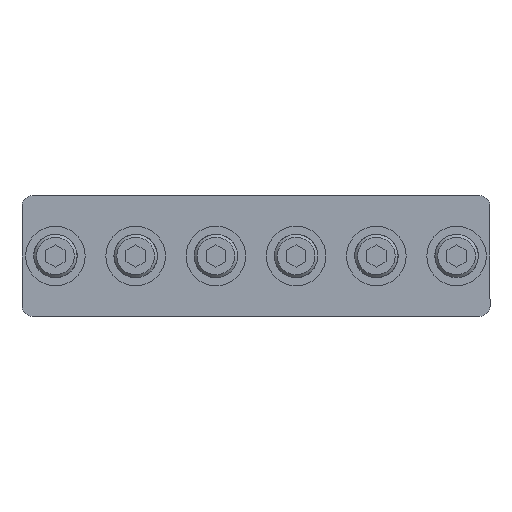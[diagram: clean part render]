
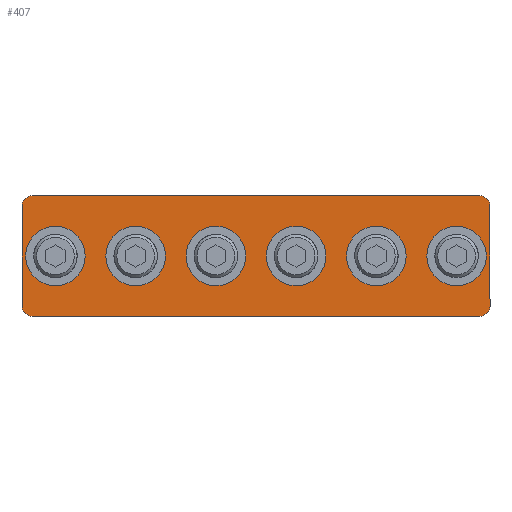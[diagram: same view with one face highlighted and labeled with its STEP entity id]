
A CAD part, front view. The second image highlights one B-rep face of the part: STEP entity #407.
In plain terms, the highlighted planar face has unit normal (0, -1, 0) as drawn and (0, 0, 1) by its records, which use the part's own axes.
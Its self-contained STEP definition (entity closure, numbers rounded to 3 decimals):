
#407=ADVANCED_FACE('',(#630,#631,#632,#633,#634,#635,#636),#637,.T.);
#630=FACE_BOUND('',#797,.T.);
#631=FACE_BOUND('',#798,.T.);
#632=FACE_BOUND('',#799,.T.);
#633=FACE_OUTER_BOUND('',#800,.T.);
#634=FACE_BOUND('',#801,.T.);
#635=FACE_BOUND('',#802,.T.);
#636=FACE_BOUND('',#803,.T.);
#637=PLANE('',#804);
#797=EDGE_LOOP('',(#1089));
#798=EDGE_LOOP('',(#1090));
#799=EDGE_LOOP('',(#1091));
#800=EDGE_LOOP('',(#1092,#1093,#1094,#1095,#1096,#1097,#1098,#1099));
#801=EDGE_LOOP('',(#1100));
#802=EDGE_LOOP('',(#1101));
#803=EDGE_LOOP('',(#1102));
#804=AXIS2_PLACEMENT_3D('',#1103,#1104,#1105);
#1089=ORIENTED_EDGE('',*,*,#1244,.T.);
#1090=ORIENTED_EDGE('',*,*,#1249,.T.);
#1091=ORIENTED_EDGE('',*,*,#1234,.T.);
#1092=ORIENTED_EDGE('',*,*,#1292,.T.);
#1093=ORIENTED_EDGE('',*,*,#1276,.T.);
#1094=ORIENTED_EDGE('',*,*,#1288,.T.);
#1095=ORIENTED_EDGE('',*,*,#1241,.T.);
#1096=ORIENTED_EDGE('',*,*,#1247,.T.);
#1097=ORIENTED_EDGE('',*,*,#1284,.T.);
#1098=ORIENTED_EDGE('',*,*,#1267,.T.);
#1099=ORIENTED_EDGE('',*,*,#1295,.T.);
#1100=ORIENTED_EDGE('',*,*,#1253,.T.);
#1101=ORIENTED_EDGE('',*,*,#1255,.T.);
#1102=ORIENTED_EDGE('',*,*,#1290,.T.);
#1103=CARTESIAN_POINT('',(-63.251,17.277,2.0));
#1104=DIRECTION('',(0.0,0.0,1.0));
#1105=DIRECTION('',(1.0,0.0,0.0));
#1234=EDGE_CURVE('',#1603,#1603,#1604,.T.);
#1241=EDGE_CURVE('',#1614,#1612,#1615,.T.);
#1244=EDGE_CURVE('',#1618,#1618,#1619,.T.);
#1247=EDGE_CURVE('',#1612,#1621,#1623,.T.);
#1249=EDGE_CURVE('',#1625,#1625,#1626,.T.);
#1253=EDGE_CURVE('',#1631,#1631,#1632,.T.);
#1255=EDGE_CURVE('',#1634,#1634,#1635,.T.);
#1267=EDGE_CURVE('',#1653,#1651,#1654,.T.);
#1276=EDGE_CURVE('',#1666,#1664,#1667,.T.);
#1284=EDGE_CURVE('',#1621,#1653,#1677,.T.);
#1288=EDGE_CURVE('',#1664,#1614,#1681,.T.);
#1290=EDGE_CURVE('',#1683,#1683,#1684,.T.);
#1292=EDGE_CURVE('',#1686,#1666,#1687,.T.);
#1295=EDGE_CURVE('',#1651,#1686,#1690,.T.);
#1603=VERTEX_POINT('',#1834);
#1604=CIRCLE('',#1835,4.05);
#1612=VERTEX_POINT('',#1846);
#1614=VERTEX_POINT('',#1849);
#1615=LINE('',#1850,#1851);
#1618=VERTEX_POINT('',#1855);
#1619=CIRCLE('',#1856,4.05);
#1621=VERTEX_POINT('',#1858);
#1623=CIRCLE('',#1861,3.);
#1625=VERTEX_POINT('',#1863);
#1626=CIRCLE('',#1864,4.05);
#1631=VERTEX_POINT('',#1869);
#1632=CIRCLE('',#1870,4.05);
#1634=VERTEX_POINT('',#1872);
#1635=CIRCLE('',#1873,4.05);
#1651=VERTEX_POINT('',#1895);
#1653=VERTEX_POINT('',#1898);
#1654=CIRCLE('',#1899,3.);
#1664=VERTEX_POINT('',#1912);
#1666=VERTEX_POINT('',#1915);
#1667=LINE('',#1916,#1917);
#1677=LINE('',#1930,#1931);
#1681=CIRCLE('',#1936,3.);
#1683=VERTEX_POINT('',#1938);
#1684=CIRCLE('',#1939,4.05);
#1686=VERTEX_POINT('',#1941);
#1687=CIRCLE('',#1942,3.0);
#1690=LINE('',#1946,#1947);
#1834=CARTESIAN_POINT('',(11.699,2.277,2.0));
#1835=AXIS2_PLACEMENT_3D('',#2136,#2137,#2138);
#1846=CARTESIAN_POINT('',(70.749,-15.723,2.0));
#1849=CARTESIAN_POINT('',(-63.251,-15.723,2.0));
#1850=CARTESIAN_POINT('',(-63.251,-15.723,2.0));
#1851=VECTOR('',#2143,1.0);
#1855=CARTESIAN_POINT('',(-36.301,2.277,2.0));
#1856=AXIS2_PLACEMENT_3D('',#2145,#2146,#2147);
#1858=CARTESIAN_POINT('',(73.749,-12.723,2.0));
#1861=AXIS2_PLACEMENT_3D('',#2149,#2150,#2151);
#1863=CARTESIAN_POINT('',(59.699,2.277,2.0));
#1864=AXIS2_PLACEMENT_3D('',#2152,#2153,#2154);
#1869=CARTESIAN_POINT('',(-12.301,2.277,2.0));
#1870=AXIS2_PLACEMENT_3D('',#2158,#2159,#2160);
#1872=CARTESIAN_POINT('',(35.699,2.277,2.0));
#1873=AXIS2_PLACEMENT_3D('',#2161,#2162,#2163);
#1895=CARTESIAN_POINT('',(70.749,20.277,2.0));
#1898=CARTESIAN_POINT('',(73.749,17.277,2.0));
#1899=AXIS2_PLACEMENT_3D('',#2174,#2175,#2176);
#1912=CARTESIAN_POINT('',(-66.251,-12.723,2.0));
#1915=CARTESIAN_POINT('',(-66.251,17.277,2.0));
#1916=CARTESIAN_POINT('',(-66.251,17.277,2.0));
#1917=VECTOR('',#2184,1.0);
#1930=CARTESIAN_POINT('',(73.749,-12.723,2.0));
#1931=VECTOR('',#2191,1.0);
#1936=AXIS2_PLACEMENT_3D('',#2193,#2194,#2195);
#1938=CARTESIAN_POINT('',(-60.301,2.277,2.0));
#1939=AXIS2_PLACEMENT_3D('',#2196,#2197,#2198);
#1941=CARTESIAN_POINT('',(-63.251,20.277,2.0));
#1942=AXIS2_PLACEMENT_3D('',#2199,#2200,#2201);
#1946=CARTESIAN_POINT('',(70.749,20.277,2.0));
#1947=VECTOR('',#2203,1.0);
#2136=CARTESIAN_POINT('',(15.749,2.277,2.0));
#2137=DIRECTION('',(0.0,0.0,-1.0));
#2138=DIRECTION('',(-1.0,0.0,0.0));
#2143=DIRECTION('',(1.0,0.0,0.0));
#2145=CARTESIAN_POINT('',(-32.251,2.277,2.0));
#2146=DIRECTION('',(0.0,0.0,-1.0));
#2147=DIRECTION('',(-1.0,0.0,0.0));
#2149=CARTESIAN_POINT('',(70.749,-12.723,2.0));
#2150=DIRECTION('',(0.0,0.0,1.0));
#2151=DIRECTION('',(1.0,0.0,0.0));
#2152=CARTESIAN_POINT('',(63.749,2.277,2.0));
#2153=DIRECTION('',(0.0,0.0,-1.0));
#2154=DIRECTION('',(-1.0,0.0,0.0));
#2158=CARTESIAN_POINT('',(-8.251,2.277,2.0));
#2159=DIRECTION('',(0.0,0.0,-1.0));
#2160=DIRECTION('',(-1.0,0.0,0.0));
#2161=CARTESIAN_POINT('',(39.749,2.277,2.0));
#2162=DIRECTION('',(0.0,0.0,-1.0));
#2163=DIRECTION('',(-1.0,0.0,0.0));
#2174=CARTESIAN_POINT('',(70.749,17.277,2.0));
#2175=DIRECTION('',(0.0,0.0,1.0));
#2176=DIRECTION('',(1.0,0.0,0.0));
#2184=DIRECTION('',(0.,-1.0,0.0));
#2191=DIRECTION('',(0.0,1.0,0.0));
#2193=CARTESIAN_POINT('',(-63.251,-12.723,2.0));
#2194=DIRECTION('',(0.0,0.0,1.0));
#2195=DIRECTION('',(1.0,0.0,0.0));
#2196=CARTESIAN_POINT('',(-56.251,2.277,2.0));
#2197=DIRECTION('',(0.0,0.0,-1.0));
#2198=DIRECTION('',(-1.0,0.0,0.0));
#2199=CARTESIAN_POINT('',(-63.251,17.277,2.0));
#2200=DIRECTION('',(0.0,0.0,1.0));
#2201=DIRECTION('',(1.0,0.0,0.0));
#2203=DIRECTION('',(-1.0,0.,0.0));
